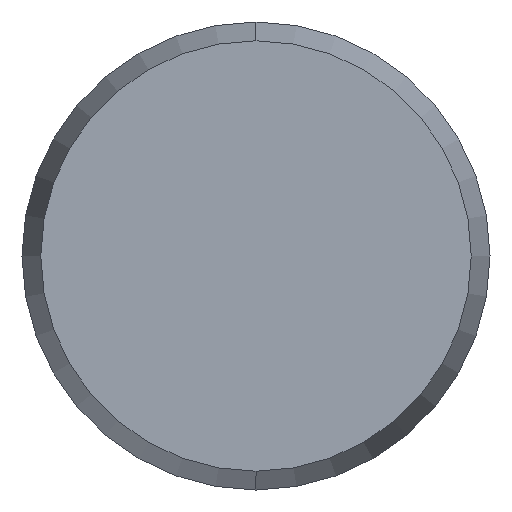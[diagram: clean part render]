
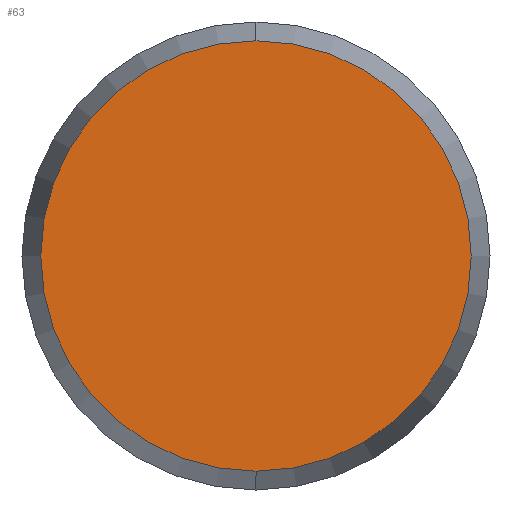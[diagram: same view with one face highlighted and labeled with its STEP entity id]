
A CAD part, left-side view. The second image highlights one B-rep face of the part: STEP entity #63.
In plain terms, the highlighted planar face has unit normal (-1, 0, 0).
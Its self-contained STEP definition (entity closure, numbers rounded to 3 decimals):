
#2 = EDGE_CURVE ( 'NONE', #47, #50, #69, .T. ) ;
#47 = VERTEX_POINT ( 'NONE', #161 ) ;
#50 = VERTEX_POINT ( 'NONE', #158 ) ;
#63 = ADVANCED_FACE ( 'NONE', ( #146 ), #145, .F. ) ;
#65 = DIRECTION ( 'NONE',  ( 0., 0., -1. ) ) ;
#66 = DIRECTION ( 'NONE',  ( 1., 0., 0. ) ) ;
#67 = CARTESIAN_POINT ( 'NONE',  ( -9., 0., 0. ) ) ;
#68 = AXIS2_PLACEMENT_3D ( 'NONE', #67, #66, #65 ) ;
#69 = CIRCLE ( 'NONE', #68, 3.678 ) ;
#78 = EDGE_CURVE ( 'NONE', #50, #47, #124, .T. ) ;
#79 = ORIENTED_EDGE ( 'NONE', *, *, #2, .F. ) ;
#80 = ORIENTED_EDGE ( 'NONE', *, *, #78, .F. ) ;
#83 = EDGE_LOOP ( 'NONE', ( #79, #80 ) ) ;
#120 = DIRECTION ( 'NONE',  ( 0., 0., -1. ) ) ;
#121 = DIRECTION ( 'NONE',  ( 1., 0., 0. ) ) ;
#122 = CARTESIAN_POINT ( 'NONE',  ( -9., 0., 0. ) ) ;
#123 = AXIS2_PLACEMENT_3D ( 'NONE', #122, #121, #120 ) ;
#124 = CIRCLE ( 'NONE', #123, 3.678 ) ;
#131 = DIRECTION ( 'NONE',  ( 0., 0., -1. ) ) ;
#132 = DIRECTION ( 'NONE',  ( 1., 0., 0. ) ) ;
#133 = CARTESIAN_POINT ( 'NONE',  ( -9., 0., 0. ) ) ;
#134 = AXIS2_PLACEMENT_3D ( 'NONE', #133, #132, #131 ) ;
#145 = PLANE ( 'NONE',  #134 ) ;
#146 = FACE_OUTER_BOUND ( 'NONE', #83, .T. ) ;
#158 = CARTESIAN_POINT ( 'NONE',  ( -9., 0., -3.678 ) ) ;
#161 = CARTESIAN_POINT ( 'NONE',  ( -9., 0., 3.678 ) ) ;
